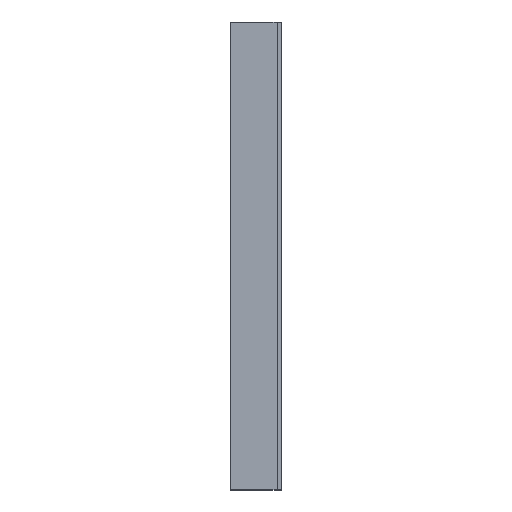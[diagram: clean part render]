
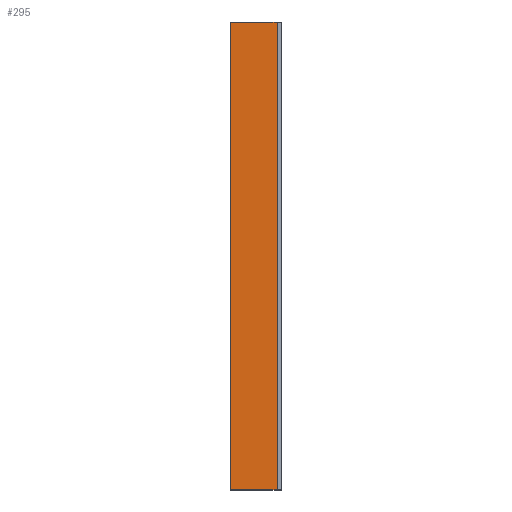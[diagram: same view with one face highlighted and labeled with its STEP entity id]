
A CAD part, left-side view. The second image highlights one B-rep face of the part: STEP entity #295.
In plain terms, the highlighted planar face has unit normal (-1, 0, 0).
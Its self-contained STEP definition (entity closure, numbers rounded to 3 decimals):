
#6 = VERTEX_POINT ( 'NONE', #240 ) ;
#32 = VECTOR ( 'NONE', #169, 1000. ) ;
#35 = LINE ( 'NONE', #170, #32 ) ;
#44 = VECTOR ( 'NONE', #190, 1000. ) ;
#47 = LINE ( 'NONE', #192, #44 ) ;
#51 = VECTOR ( 'NONE', #202, 1000. ) ;
#54 = LINE ( 'NONE', #204, #51 ) ;
#59 = VECTOR ( 'NONE', #216, 1000. ) ;
#64 = LINE ( 'NONE', #223, #59 ) ;
#75 = VERTEX_POINT ( 'NONE', #238 ) ;
#76 = VERTEX_POINT ( 'NONE', #208 ) ;
#88 = ORIENTED_EDGE ( 'NONE', *, *, #347, .T. ) ;
#91 = VERTEX_POINT ( 'NONE', #219 ) ;
#117 = FACE_OUTER_BOUND ( 'NONE', #123, .T. ) ;
#123 = EDGE_LOOP ( 'NONE', ( #149, #143, #148, #88 ) ) ;
#143 = ORIENTED_EDGE ( 'NONE', *, *, #359, .F. ) ;
#148 = ORIENTED_EDGE ( 'NONE', *, *, #333, .F. ) ;
#149 = ORIENTED_EDGE ( 'NONE', *, *, #327, .T. ) ;
#169 = DIRECTION ( 'NONE',  ( 0., -1., 0. ) ) ;
#170 = CARTESIAN_POINT ( 'NONE',  ( 0., 2., 10. ) ) ;
#188 = DIRECTION ( 'NONE',  ( 0., 0., -1. ) ) ;
#189 = DIRECTION ( 'NONE',  ( 1., 0., 0. ) ) ;
#190 = DIRECTION ( 'NONE',  ( 0., -1., 0. ) ) ;
#192 = CARTESIAN_POINT ( 'NONE',  ( 0., 2., -10. ) ) ;
#202 = DIRECTION ( 'NONE',  ( 0., 0., 1. ) ) ;
#204 = CARTESIAN_POINT ( 'NONE',  ( 0., 2., -10. ) ) ;
#206 = PLANE ( 'NONE',  #336 ) ;
#208 = CARTESIAN_POINT ( 'NONE',  ( 0., 2., -10. ) ) ;
#211 = CARTESIAN_POINT ( 'NONE',  ( 0., 2., -10. ) ) ;
#216 = DIRECTION ( 'NONE',  ( 0., 0., 1. ) ) ;
#219 = CARTESIAN_POINT ( 'NONE',  ( 0., 0., -10. ) ) ;
#223 = CARTESIAN_POINT ( 'NONE',  ( 0., 0., -10. ) ) ;
#238 = CARTESIAN_POINT ( 'NONE',  ( 0., 0., 10. ) ) ;
#240 = CARTESIAN_POINT ( 'NONE',  ( 0., 2., 10. ) ) ;
#295 = ADVANCED_FACE ( 'NONE', ( #117 ), #206, .F. ) ;
#327 = EDGE_CURVE ( 'NONE', #91, #75, #64, .T. ) ;
#333 = EDGE_CURVE ( 'NONE', #76, #6, #54, .T. ) ;
#336 = AXIS2_PLACEMENT_3D ( 'NONE', #211, #189, #188 ) ;
#347 = EDGE_CURVE ( 'NONE', #76, #91, #47, .T. ) ;
#359 = EDGE_CURVE ( 'NONE', #6, #75, #35, .T. ) ;
